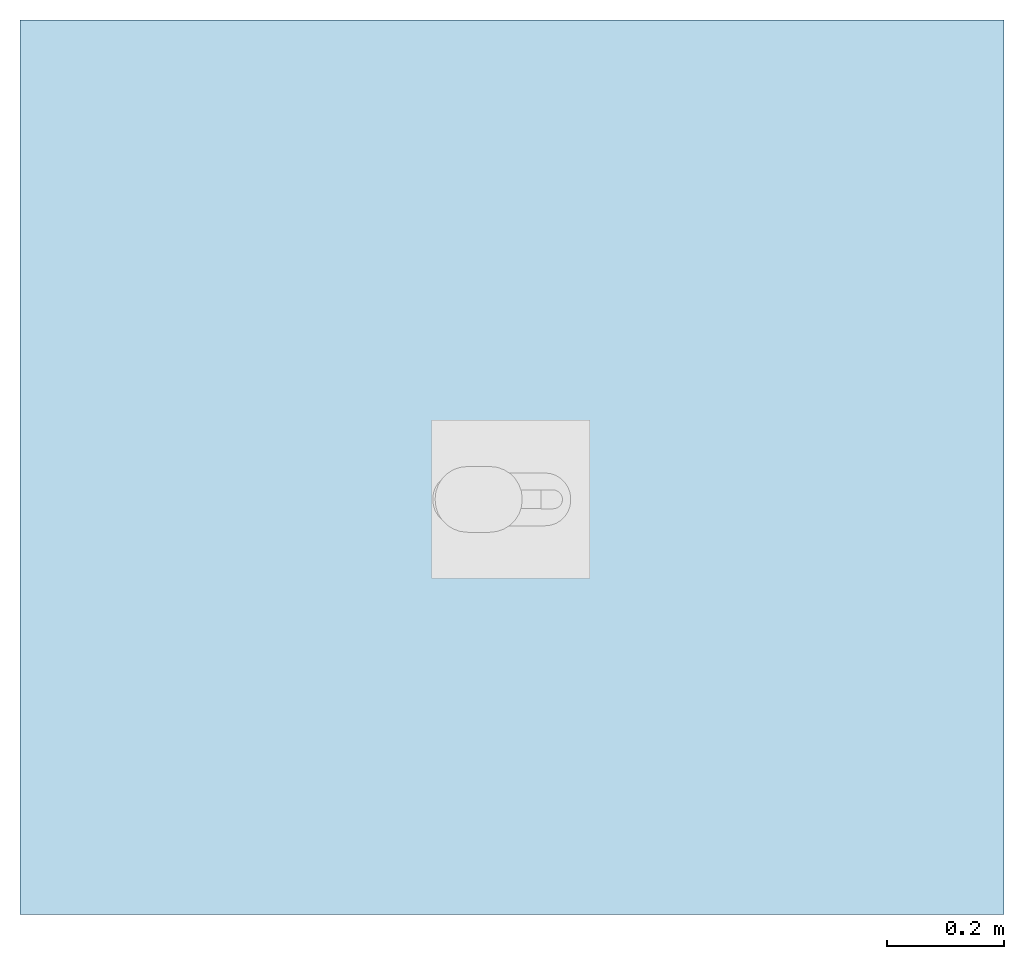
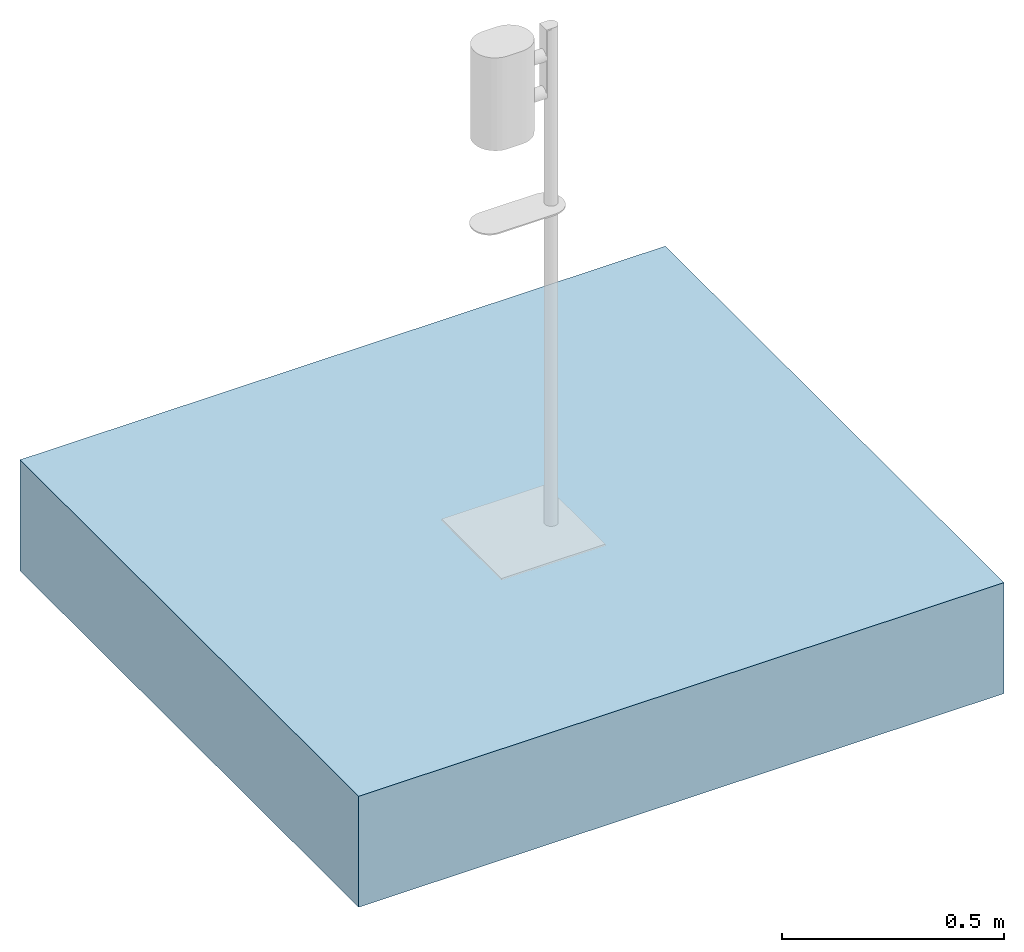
# One storey, part 1 of 2: 1 slab.
"""IFC2X3 building model written with IfcOpenShell, lengths in feet."""

from ifc_helpers import new_model, entity, si_unit, converted_unit, derived_unit, direction, frame, origin, origin_2d_with_axis, place, context, subcontext, project, spatial, rectangle, extrude, material, layer, layer_set, layer_usage, type_object, element, save


model = new_model("IFC2X3")

# Units and contexts
model_context = context("Model", 3, precision=0.0001, world=origin(), true_north=direction((6.12303176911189e-17, 1.0)))
body_context = subcontext(model_context, "Body", "Model", "MODEL_VIEW")
ifc_project = project(units=[converted_unit("LENGTHUNIT", "FOOT", entity("IfcRatioMeasure", 0.3048), si_unit("LENGTHUNIT", "METRE"), dimensions=[1, 0, 0, 0, 0, 0, 0]), converted_unit("AREAUNIT", "SQUARE FOOT", entity("IfcRatioMeasure", 0.09290304), si_unit("AREAUNIT", "SQUARE_METRE"), dimensions=[2, 0, 0, 0, 0, 0, 0]), converted_unit("VOLUMEUNIT", "CUBIC FOOT", entity("IfcRatioMeasure", 0.028316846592), si_unit("VOLUMEUNIT", "CUBIC_METRE"), dimensions=[3, 0, 0, 0, 0, 0, 0]), converted_unit("PLANEANGLEUNIT", "DEGREE", entity("IfcRatioMeasure", 0.0174532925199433), si_unit("PLANEANGLEUNIT", "RADIAN"), dimensions=[0, 0, 0, 0, 0, 0, 0]), si_unit("MASSUNIT", "GRAM", prefix="KILO"), derived_unit("MASSDENSITYUNIT", [(si_unit("MASSUNIT", "GRAM", prefix="KILO"), 1), (si_unit("LENGTHUNIT", "METRE"), -3)]), derived_unit("MOMENTOFINERTIAUNIT", [(si_unit("LENGTHUNIT", "METRE"), 4)]), si_unit("TIMEUNIT", "SECOND"), si_unit("FREQUENCYUNIT", "HERTZ"), si_unit("THERMODYNAMICTEMPERATUREUNIT", "DEGREE_CELSIUS"), derived_unit("THERMALTRANSMITTANCEUNIT", [(si_unit("MASSUNIT", "GRAM", prefix="KILO"), 1), (si_unit("THERMODYNAMICTEMPERATUREUNIT", "KELVIN"), -1), (si_unit("TIMEUNIT", "SECOND"), -3)]), derived_unit("VOLUMETRICFLOWRATEUNIT", [(si_unit("LENGTHUNIT", "METRE"), 3), (si_unit("TIMEUNIT", "SECOND"), -1)]), si_unit("ELECTRICCURRENTUNIT", "AMPERE"), si_unit("ELECTRICVOLTAGEUNIT", "VOLT"), si_unit("POWERUNIT", "WATT"), si_unit("FORCEUNIT", "NEWTON"), si_unit("ILLUMINANCEUNIT", "LUX"), si_unit("LUMINOUSFLUXUNIT", "LUMEN"), si_unit("LUMINOUSINTENSITYUNIT", "CANDELA"), derived_unit("USERDEFINED", [(si_unit("MASSUNIT", "GRAM", prefix="KILO"), -1), (si_unit("LENGTHUNIT", "METRE"), -2), (si_unit("TIMEUNIT", "SECOND"), 3), (si_unit("LUMINOUSFLUXUNIT", "LUMEN"), 1)]), derived_unit("LINEARVELOCITYUNIT", [(si_unit("LENGTHUNIT", "METRE"), 1), (si_unit("TIMEUNIT", "SECOND"), -1)]), si_unit("PRESSUREUNIT", "PASCAL"), derived_unit("USERDEFINED", [(si_unit("LENGTHUNIT", "METRE"), -2), (si_unit("MASSUNIT", "GRAM", prefix="KILO"), 1), (si_unit("TIMEUNIT", "SECOND"), -2)]), derived_unit("LINEARFORCEUNIT", [(si_unit("MASSUNIT", "GRAM", prefix="KILO"), 1), (si_unit("LENGTHUNIT", "METRE"), 1), (si_unit("TIMEUNIT", "SECOND"), -2), (si_unit("LENGTHUNIT", "METRE"), -1)]), derived_unit("PLANARFORCEUNIT", [(si_unit("MASSUNIT", "GRAM", prefix="KILO"), 1), (si_unit("LENGTHUNIT", "METRE"), 1), (si_unit("TIMEUNIT", "SECOND"), -2), (si_unit("LENGTHUNIT", "METRE"), -2)])], contexts=[model_context])

# Site, building, storey
site_placement = place(None, origin())
site = spatial("IfcSite", under=ifc_project, at=site_placement, Name="Default", CompositionType="ELEMENT")
building_placement = place(site_placement, origin())
building = spatial("IfcBuilding", under=site, at=building_placement, CompositionType="ELEMENT")
storey_placement = place(building_placement, origin())
storey = spatial("IfcBuildingStorey", under=building, at=storey_placement, Name="First Floor", CompositionType="ELEMENT", Elevation=0.0)

# Slab
ifc_material = material(Name="Default Floor")
ifc_layer = layer(ifc_material, 1.0)
ifc_layer_set = layer_set([ifc_layer], Name="Floor:Generic - 12\"")
ifc_layer_usage = layer_usage(ifc_layer_set, "AXIS3", "POSITIVE", 0.0)
slab_type = type_object("IfcSlabType", Name="Floor:Generic - 12\"", PredefinedType="FLOOR", material=ifc_layer_set)
slab_placement = place(storey_placement, origin())
element("IfcSlab", 1, at=slab_placement, inside=storey, type_object=slab_type, material=ifc_layer_usage, Name="Floor:Generic - 12\"", ObjectType="Floor:Generic - 12\"", PredefinedType="FLOOR", context=body_context, shape_type="SweptSolid", body=[
    extrude(rectangle(XDim=5.0, YDim=5.5, at=origin_2d_with_axis()), frame((-3.72973071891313, -0.482930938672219, 0.0), z_axis=(0.0, 0.0, -1.0), x_axis=(0.0, 1.0, 0.0)), (0.0, 0.0, 1.0), 1.0),
])

save(model, "model.ifc")
